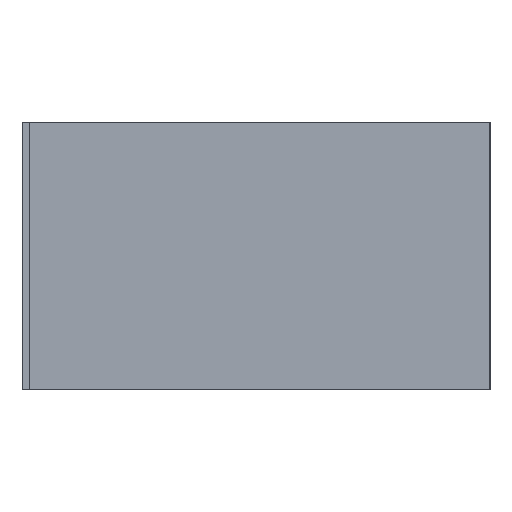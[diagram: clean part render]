
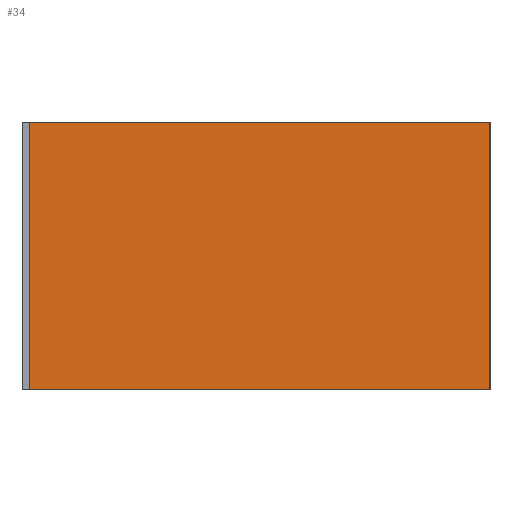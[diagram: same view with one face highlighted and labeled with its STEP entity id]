
A CAD part, left-side view. The second image highlights one B-rep face of the part: STEP entity #34.
In plain terms, the highlighted planar face has unit normal (-1, 0, 0).
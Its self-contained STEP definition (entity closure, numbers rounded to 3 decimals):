
#3 = CARTESIAN_POINT ( 'NONE',  ( -256.8, 0., 10. ) ) ;
#16 = ORIENTED_EDGE ( 'NONE', *, *, #181, .F. ) ;
#17 = PLANE ( 'NONE',  #188 ) ;
#33 = VECTOR ( 'NONE', #120, 1000. ) ;
#34 = ADVANCED_FACE ( 'NONE', ( #76 ), #17, .T. ) ;
#39 = ORIENTED_EDGE ( 'NONE', *, *, #71, .T. ) ;
#71 = EDGE_CURVE ( 'NONE', #129, #149, #108, .T. ) ;
#73 = CARTESIAN_POINT ( 'NONE',  ( -256.8, 11.5, 10. ) ) ;
#76 = FACE_OUTER_BOUND ( 'NONE', #273, .T. ) ;
#84 = CARTESIAN_POINT ( 'NONE',  ( -256.8, 0., 0. ) ) ;
#87 = CARTESIAN_POINT ( 'NONE',  ( -256.8, -5.699, 10. ) ) ;
#90 = VECTOR ( 'NONE', #202, 1000. ) ;
#108 = LINE ( 'NONE', #252, #132 ) ;
#120 = DIRECTION ( 'NONE',  ( 0., 0., -1. ) ) ;
#124 = LINE ( 'NONE', #182, #33 ) ;
#129 = VERTEX_POINT ( 'NONE', #73 ) ;
#132 = VECTOR ( 'NONE', #331, 1000. ) ;
#142 = CARTESIAN_POINT ( 'NONE',  ( -256.8, -5.699, 0. ) ) ;
#148 = LINE ( 'NONE', #84, #179 ) ;
#149 = VERTEX_POINT ( 'NONE', #236 ) ;
#168 = ORIENTED_EDGE ( 'NONE', *, *, #360, .T. ) ;
#179 = VECTOR ( 'NONE', #313, 1000. ) ;
#181 = EDGE_CURVE ( 'NONE', #356, #298, #124, .T. ) ;
#182 = CARTESIAN_POINT ( 'NONE',  ( -256.8, -5.699, 10. ) ) ;
#188 = AXIS2_PLACEMENT_3D ( 'NONE', #339, #330, #332 ) ;
#202 = DIRECTION ( 'NONE',  ( 0., 1., 0. ) ) ;
#236 = CARTESIAN_POINT ( 'NONE',  ( -256.8, 11.5, 0. ) ) ;
#252 = CARTESIAN_POINT ( 'NONE',  ( -256.8, 11.5, 10. ) ) ;
#273 = EDGE_LOOP ( 'NONE', ( #361, #16, #168, #39 ) ) ;
#298 = VERTEX_POINT ( 'NONE', #142 ) ;
#309 = LINE ( 'NONE', #3, #90 ) ;
#313 = DIRECTION ( 'NONE',  ( 0., 1., 0. ) ) ;
#326 = EDGE_CURVE ( 'NONE', #298, #149, #148, .T. ) ;
#330 = DIRECTION ( 'NONE',  ( -1., 0., 0. ) ) ;
#331 = DIRECTION ( 'NONE',  ( 0., 0., -1. ) ) ;
#332 = DIRECTION ( 'NONE',  ( 0., 0., 1. ) ) ;
#339 = CARTESIAN_POINT ( 'NONE',  ( -256.8, 0., 10. ) ) ;
#356 = VERTEX_POINT ( 'NONE', #87 ) ;
#360 = EDGE_CURVE ( 'NONE', #356, #129, #309, .T. ) ;
#361 = ORIENTED_EDGE ( 'NONE', *, *, #326, .F. ) ;
